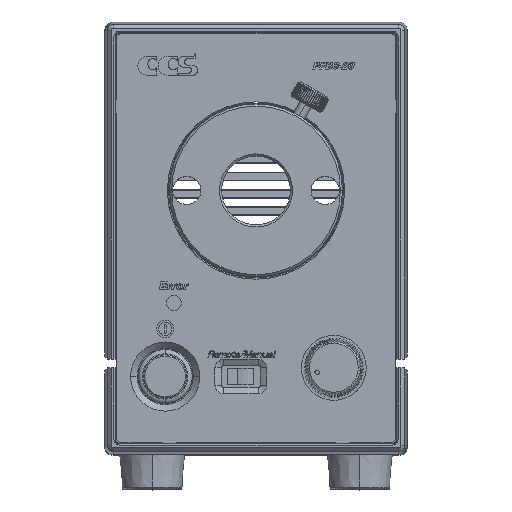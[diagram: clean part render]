
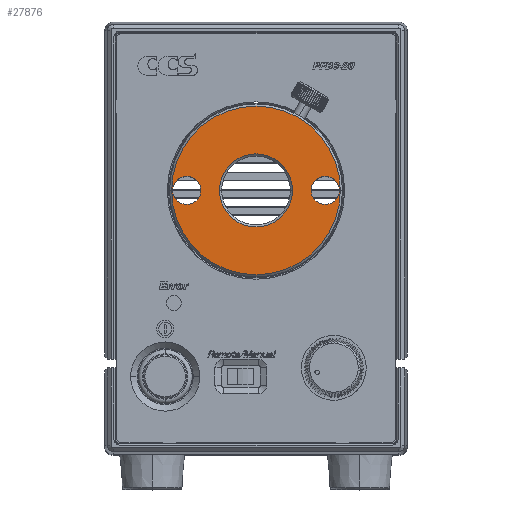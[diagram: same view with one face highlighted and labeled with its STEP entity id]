
A CAD part, top view. The second image highlights one B-rep face of the part: STEP entity #27876.
In plain terms, the highlighted planar face has unit normal (0, 0, 1).
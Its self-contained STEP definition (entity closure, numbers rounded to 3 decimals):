
#1107 = ORIENTED_EDGE ( 'NONE', *, *, #59149, .F. ) ;
#2783 = VERTEX_POINT ( 'NONE', #19170 ) ;
#3143 = AXIS2_PLACEMENT_3D ( 'NONE', #28365, #46559, #33678 ) ;
#5108 = CIRCLE ( 'NONE', #16697, 3.25 ) ;
#5160 = AXIS2_PLACEMENT_3D ( 'NONE', #26854, #32675, #74794 ) ;
#6336 = AXIS2_PLACEMENT_3D ( 'NONE', #73995, #61851, #74250 ) ;
#7819 = AXIS2_PLACEMENT_3D ( 'NONE', #26501, #8450, #45450 ) ;
#8251 = FACE_BOUND ( 'NONE', #58866, .T. ) ;
#8450 = DIRECTION ( 'NONE',  ( 0., 0., 1. ) ) ;
#9091 = AXIS2_PLACEMENT_3D ( 'NONE', #14347, #56320, #62602 ) ;
#9993 = ORIENTED_EDGE ( 'NONE', *, *, #57158, .F. ) ;
#10724 = EDGE_CURVE ( 'NONE', #49489, #53813, #63199, .T. ) ;
#11172 = EDGE_LOOP ( 'NONE', ( #66328, #40243 ) ) ;
#13843 = CIRCLE ( 'NONE', #21149, 19.5 ) ;
#14347 = CARTESIAN_POINT ( 'NONE',  ( 0., 11., 91.801 ) ) ;
#15582 = CARTESIAN_POINT ( 'NONE',  ( 12.75, 11., 91.801 ) ) ;
#16697 = AXIS2_PLACEMENT_3D ( 'NONE', #49859, #56928, #67939 ) ;
#18954 = EDGE_CURVE ( 'NONE', #66037, #56719, #39006, .T. ) ;
#19170 = CARTESIAN_POINT ( 'NONE',  ( -19.25, 11., 91.801 ) ) ;
#19689 = PLANE ( 'NONE',  #6336 ) ;
#21149 = AXIS2_PLACEMENT_3D ( 'NONE', #42476, #24279, #42744 ) ;
#21429 = CARTESIAN_POINT ( 'NONE',  ( 19.5, 11., 91.801 ) ) ;
#24279 = DIRECTION ( 'NONE',  ( 0., 0., 1. ) ) ;
#24769 = EDGE_CURVE ( 'NONE', #2783, #68407, #45695, .T. ) ;
#26501 = CARTESIAN_POINT ( 'NONE',  ( 16., 11., 91.801 ) ) ;
#26854 = CARTESIAN_POINT ( 'NONE',  ( -16., 11., 91.801 ) ) ;
#26947 = DIRECTION ( 'NONE',  ( 0., 0., -1. ) ) ;
#27335 = CARTESIAN_POINT ( 'NONE',  ( 0., 11., 91.801 ) ) ;
#27876 = ADVANCED_FACE ( 'NONE', ( #47996, #72475, #8251, #73440 ), #19689, .F. ) ;
#28365 = CARTESIAN_POINT ( 'NONE',  ( 16., 11., 91.801 ) ) ;
#32499 = CARTESIAN_POINT ( 'NONE',  ( 0., 11., 91.801 ) ) ;
#32675 = DIRECTION ( 'NONE',  ( 0., 0., 1. ) ) ;
#33050 = CIRCLE ( 'NONE', #7819, 3.25 ) ;
#33678 = DIRECTION ( 'NONE',  ( 1., 0., 0. ) ) ;
#33892 = AXIS2_PLACEMENT_3D ( 'NONE', #32499, #26947, #67949 ) ;
#36311 = CARTESIAN_POINT ( 'NONE',  ( -12.75, 11., 91.801 ) ) ;
#37620 = EDGE_LOOP ( 'NONE', ( #70832, #42733 ) ) ;
#38252 = CIRCLE ( 'NONE', #3143, 3.25 ) ;
#39006 = CIRCLE ( 'NONE', #42523, 8.45 ) ;
#40243 = ORIENTED_EDGE ( 'NONE', *, *, #10724, .T. ) ;
#41131 = EDGE_CURVE ( 'NONE', #53813, #49489, #13843, .T. ) ;
#42476 = CARTESIAN_POINT ( 'NONE',  ( 0., 11., 91.801 ) ) ;
#42523 = AXIS2_PLACEMENT_3D ( 'NONE', #27335, #63614, #69619 ) ;
#42733 = ORIENTED_EDGE ( 'NONE', *, *, #43058, .T. ) ;
#42744 = DIRECTION ( 'NONE',  ( -1., 0., 0. ) ) ;
#43058 = EDGE_CURVE ( 'NONE', #56719, #66037, #71807, .T. ) ;
#44006 = CARTESIAN_POINT ( 'NONE',  ( -19.5, 11., 91.801 ) ) ;
#45450 = DIRECTION ( 'NONE',  ( 1., 0., 0. ) ) ;
#45635 = ORIENTED_EDGE ( 'NONE', *, *, #69370, .F. ) ;
#45695 = CIRCLE ( 'NONE', #5160, 3.25 ) ;
#46559 = DIRECTION ( 'NONE',  ( 0., 0., 1. ) ) ;
#47996 = FACE_BOUND ( 'NONE', #37620, .T. ) ;
#49489 = VERTEX_POINT ( 'NONE', #21429 ) ;
#49610 = VERTEX_POINT ( 'NONE', #15582 ) ;
#49828 = VERTEX_POINT ( 'NONE', #49880 ) ;
#49859 = CARTESIAN_POINT ( 'NONE',  ( -16., 11., 91.801 ) ) ;
#49880 = CARTESIAN_POINT ( 'NONE',  ( 19.25, 11., 91.801 ) ) ;
#50583 = CARTESIAN_POINT ( 'NONE',  ( 8.45, 11., 91.801 ) ) ;
#50984 = CARTESIAN_POINT ( 'NONE',  ( -8.45, 11., 91.801 ) ) ;
#52542 = EDGE_LOOP ( 'NONE', ( #1107, #45635 ) ) ;
#53813 = VERTEX_POINT ( 'NONE', #44006 ) ;
#56320 = DIRECTION ( 'NONE',  ( 0., 0., 1. ) ) ;
#56719 = VERTEX_POINT ( 'NONE', #50984 ) ;
#56928 = DIRECTION ( 'NONE',  ( 0., 0., 1. ) ) ;
#57158 = EDGE_CURVE ( 'NONE', #68407, #2783, #5108, .T. ) ;
#58866 = EDGE_LOOP ( 'NONE', ( #9993, #77696 ) ) ;
#59149 = EDGE_CURVE ( 'NONE', #49828, #49610, #38252, .T. ) ;
#61851 = DIRECTION ( 'NONE',  ( 0., 0., -1. ) ) ;
#62602 = DIRECTION ( 'NONE',  ( -1., 0., 0. ) ) ;
#63199 = CIRCLE ( 'NONE', #9091, 19.5 ) ;
#63614 = DIRECTION ( 'NONE',  ( 0., 0., -1. ) ) ;
#66037 = VERTEX_POINT ( 'NONE', #50583 ) ;
#66328 = ORIENTED_EDGE ( 'NONE', *, *, #41131, .T. ) ;
#67939 = DIRECTION ( 'NONE',  ( 1., 0., 0. ) ) ;
#67949 = DIRECTION ( 'NONE',  ( -1., 0., 0. ) ) ;
#68407 = VERTEX_POINT ( 'NONE', #36311 ) ;
#69370 = EDGE_CURVE ( 'NONE', #49610, #49828, #33050, .T. ) ;
#69619 = DIRECTION ( 'NONE',  ( -1., 0., 0. ) ) ;
#70832 = ORIENTED_EDGE ( 'NONE', *, *, #18954, .T. ) ;
#71807 = CIRCLE ( 'NONE', #33892, 8.45 ) ;
#72475 = FACE_OUTER_BOUND ( 'NONE', #11172, .T. ) ;
#73440 = FACE_BOUND ( 'NONE', #52542, .T. ) ;
#73995 = CARTESIAN_POINT ( 'NONE',  ( 0., 31., 91.801 ) ) ;
#74250 = DIRECTION ( 'NONE',  ( -1., 0., 0. ) ) ;
#74794 = DIRECTION ( 'NONE',  ( 1., 0., 0. ) ) ;
#77696 = ORIENTED_EDGE ( 'NONE', *, *, #24769, .F. ) ;
